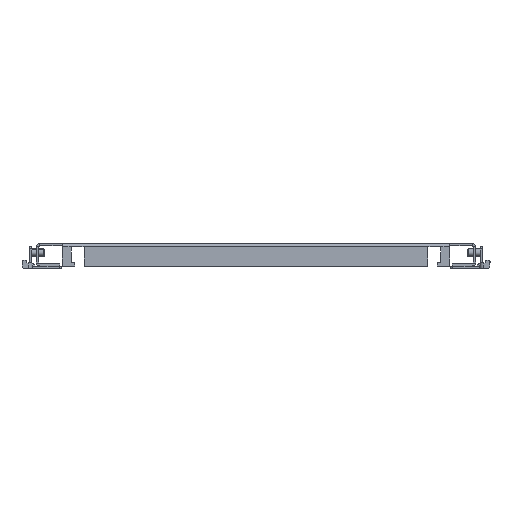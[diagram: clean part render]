
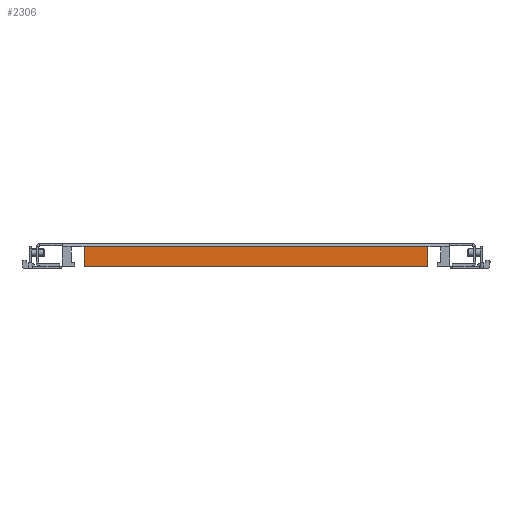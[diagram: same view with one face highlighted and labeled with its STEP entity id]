
A CAD part, front view. The second image highlights one B-rep face of the part: STEP entity #2306.
In plain terms, the highlighted planar face has unit normal (0, -1, 0).
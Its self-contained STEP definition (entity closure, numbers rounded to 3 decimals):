
#130 = VECTOR ( 'NONE', #5581, 1000. ) ;
#218 = DIRECTION ( 'NONE',  ( 0., -1., 0. ) ) ;
#519 = VECTOR ( 'NONE', #8978, 1000. ) ;
#776 = ORIENTED_EDGE ( 'NONE', *, *, #11469, .F. ) ;
#810 = LINE ( 'NONE', #8083, #519 ) ;
#868 = EDGE_CURVE ( 'NONE', #7219, #11623, #5577, .T. ) ;
#1037 = CARTESIAN_POINT ( 'NONE',  ( 432.4, 0., -1. ) ) ;
#1408 = EDGE_CURVE ( 'NONE', #11623, #4499, #5006, .T. ) ;
#2306 = ADVANCED_FACE ( 'NONE', ( #9501 ), #4724, .T. ) ;
#2700 = EDGE_LOOP ( 'NONE', ( #7733, #776, #7496, #9156 ) ) ;
#4216 = DIRECTION ( 'NONE',  ( -1., 0., 0. ) ) ;
#4499 = VERTEX_POINT ( 'NONE', #10574 ) ;
#4724 = PLANE ( 'NONE',  #10984 ) ;
#5006 = LINE ( 'NONE', #11458, #9526 ) ;
#5416 = CARTESIAN_POINT ( 'NONE',  ( 432.4, 0., -22.5 ) ) ;
#5577 = LINE ( 'NONE', #11556, #10109 ) ;
#5581 = DIRECTION ( 'NONE',  ( 0., 0., -1. ) ) ;
#5648 = VERTEX_POINT ( 'NONE', #7660 ) ;
#6546 = DIRECTION ( 'NONE',  ( 0., 0., -1. ) ) ;
#7219 = VERTEX_POINT ( 'NONE', #5416 ) ;
#7371 = CARTESIAN_POINT ( 'NONE',  ( 52.6, 0., -1. ) ) ;
#7496 = ORIENTED_EDGE ( 'NONE', *, *, #868, .T. ) ;
#7630 = LINE ( 'NONE', #7371, #130 ) ;
#7660 = CARTESIAN_POINT ( 'NONE',  ( 52.6, 0., -22.5 ) ) ;
#7733 = ORIENTED_EDGE ( 'NONE', *, *, #10326, .T. ) ;
#7952 = DIRECTION ( 'NONE',  ( 0., 0., 1. ) ) ;
#8083 = CARTESIAN_POINT ( 'NONE',  ( 28.5, 0., -22.5 ) ) ;
#8978 = DIRECTION ( 'NONE',  ( -1., 0., 0. ) ) ;
#9156 = ORIENTED_EDGE ( 'NONE', *, *, #1408, .T. ) ;
#9501 = FACE_OUTER_BOUND ( 'NONE', #2700, .T. ) ;
#9526 = VECTOR ( 'NONE', #4216, 1000. ) ;
#10109 = VECTOR ( 'NONE', #7952, 1000. ) ;
#10326 = EDGE_CURVE ( 'NONE', #4499, #5648, #7630, .T. ) ;
#10574 = CARTESIAN_POINT ( 'NONE',  ( 52.6, 0., -1. ) ) ;
#10984 = AXIS2_PLACEMENT_3D ( 'NONE', #11044, #218, #6546 ) ;
#11044 = CARTESIAN_POINT ( 'NONE',  ( 28.5, 0., 0. ) ) ;
#11458 = CARTESIAN_POINT ( 'NONE',  ( 28.5, 0., -1. ) ) ;
#11469 = EDGE_CURVE ( 'NONE', #7219, #5648, #810, .T. ) ;
#11556 = CARTESIAN_POINT ( 'NONE',  ( 432.4, 0., -1. ) ) ;
#11623 = VERTEX_POINT ( 'NONE', #1037 ) ;
